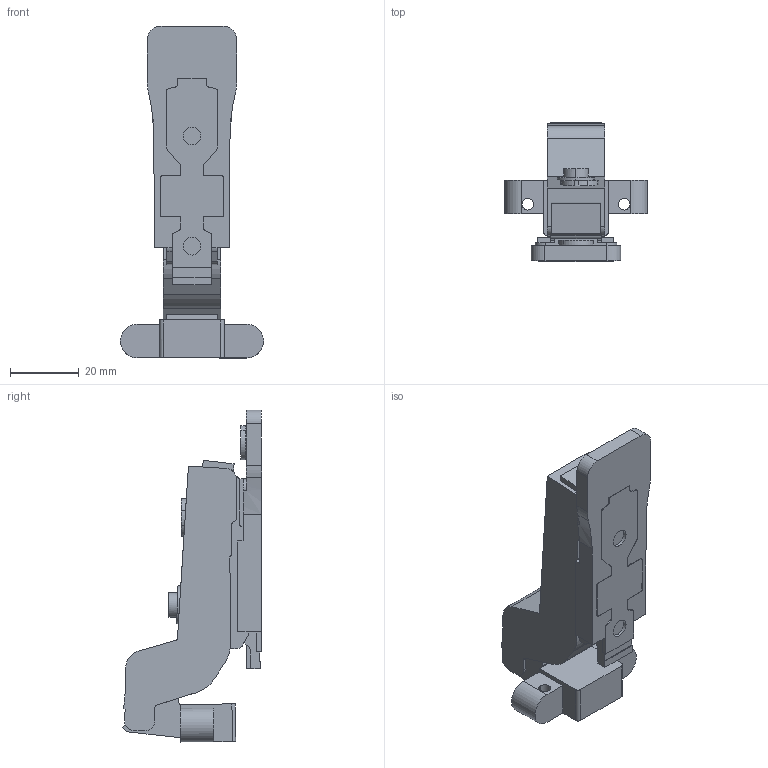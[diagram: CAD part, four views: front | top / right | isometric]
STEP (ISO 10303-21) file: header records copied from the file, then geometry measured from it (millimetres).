
FILE_DESCRIPTION (( 'STEP AP203' ), '1' );
FILE_NAME ('C80C678F+80H20YQ-DTC 3D close.STEP', '2023-10-07T07:03:45', ( 'Windows 蚚誧' ), ( '' ), 'SwSTEP 2.0', 'SolidWorks 2018', '' );
FILE_SCHEMA (( 'CONFIG_CONTROL_DESIGN' ));
Length unit declared in the file: millimetre
Products named in the file (1): C80C678F+80H20YQ-DTC 3D  close
Bounding box: 41.6 x 40.67 x 96.52 mm (x, y, z)
Volume: 38273.5 mm3; surface area: 11676.9 mm2
Topology: 1 solids, 1 shells, 214 faces, 615 edges, 410 vertices
Faces by surface type: plane 119, cylinder 89, bspline 4, torus 2
Entity records: 7313 total; most frequent: CARTESIAN_POINT 1493, ORIENTED_EDGE 1230, DIRECTION 1201, EDGE_CURVE 615, VECTOR 413, LINE 413, VERTEX_POINT 410, AXIS2_PLACEMENT_3D 394
